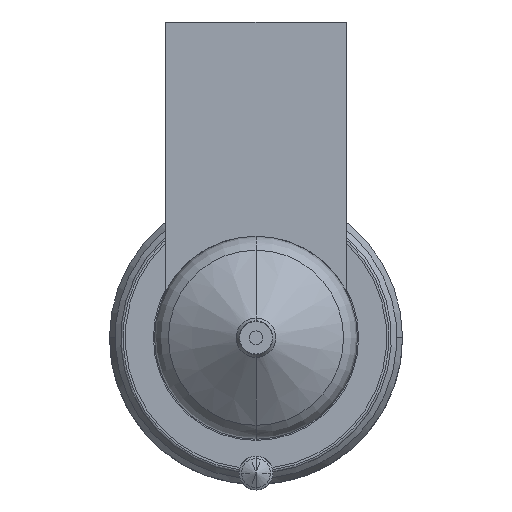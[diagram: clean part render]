
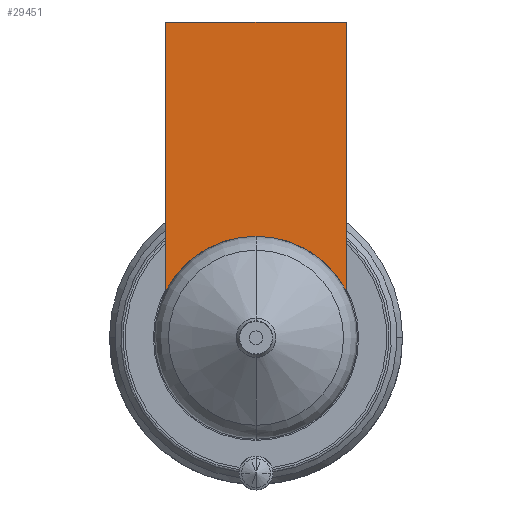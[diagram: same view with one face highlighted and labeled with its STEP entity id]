
A CAD part, front view. The second image highlights one B-rep face of the part: STEP entity #29451.
In plain terms, the highlighted planar face has unit normal (0, -1, 0).
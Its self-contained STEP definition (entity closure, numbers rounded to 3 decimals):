
#28794=DIRECTION('',(1.,0.,0.));
#28795=VECTOR('',#28794,16.);
#28796=CARTESIAN_POINT('',(-8.,-54.,28.));
#28797=LINE('',#28796,#28795);
#28802=CARTESIAN_POINT('',(0.,-54.,0.));
#28803=DIRECTION('',(0.,-1.,0.));
#28804=DIRECTION('',(0.889,0.,0.458));
#28805=AXIS2_PLACEMENT_3D('',#28802,#28803,#28804);
#28810=CARTESIAN_POINT('',(0.,-54.,0.));
#28811=DIRECTION('',(0.,-1.,0.));
#28812=DIRECTION('',(0.,0.,1.));
#28813=AXIS2_PLACEMENT_3D('',#28810,#28811,#28812);
#28839=DIRECTION('',(0.,0.,-1.));
#28840=VECTOR('',#28839,23.877);
#28841=CARTESIAN_POINT('',(-8.,-54.,28.));
#28842=LINE('',#28841,#28840);
#29323=DIRECTION('',(0.,0.,-1.));
#29324=VECTOR('',#29323,23.877);
#29325=CARTESIAN_POINT('',(8.,-54.,28.));
#29326=LINE('',#29325,#29324);
#29376=CARTESIAN_POINT('',(-8.,-54.,28.));
#29377=VERTEX_POINT('',#29376);
#29382=CARTESIAN_POINT('',(8.,-54.,28.));
#29383=VERTEX_POINT('',#29382);
#29386=CARTESIAN_POINT('',(-8.,-54.,4.123));
#29387=VERTEX_POINT('',#29386);
#29390=CARTESIAN_POINT('',(8.,-54.,4.123));
#29391=VERTEX_POINT('',#29390);
#29432=CARTESIAN_POINT('',(0.,-54.,9.));
#29433=VERTEX_POINT('',#29432);
#29434=CARTESIAN_POINT('',(0.,-54.,9.));
#29435=DIRECTION('',(0.,1.,0.));
#29436=DIRECTION('',(0.,0.,-1.));
#29437=AXIS2_PLACEMENT_3D('',#29434,#29435,#29436);
#29438=PLANE('',#29437);
#29440=ORIENTED_EDGE('',*,*,#29439,.F.);
#29442=ORIENTED_EDGE('',*,*,#29441,.T.);
#29444=ORIENTED_EDGE('',*,*,#29443,.T.);
#29446=ORIENTED_EDGE('',*,*,#29445,.T.);
#29448=ORIENTED_EDGE('',*,*,#29447,.T.);
#29449=EDGE_LOOP('',(#29440,#29442,#29444,#29446,#29448));
#29450=FACE_OUTER_BOUND('',#29449,.F.);
#29451=ADVANCED_FACE('',(#29450),#29438,.F.);
#28806=CIRCLE('',#28805,9.);
#28814=CIRCLE('',#28813,9.);
#29439=EDGE_CURVE('',#29377,#29387,#28842,.T.);
#29441=EDGE_CURVE('',#29377,#29383,#28797,.T.);
#29443=EDGE_CURVE('',#29383,#29391,#29326,.T.);
#29445=EDGE_CURVE('',#29391,#29433,#28806,.T.);
#29447=EDGE_CURVE('',#29433,#29387,#28814,.T.);
